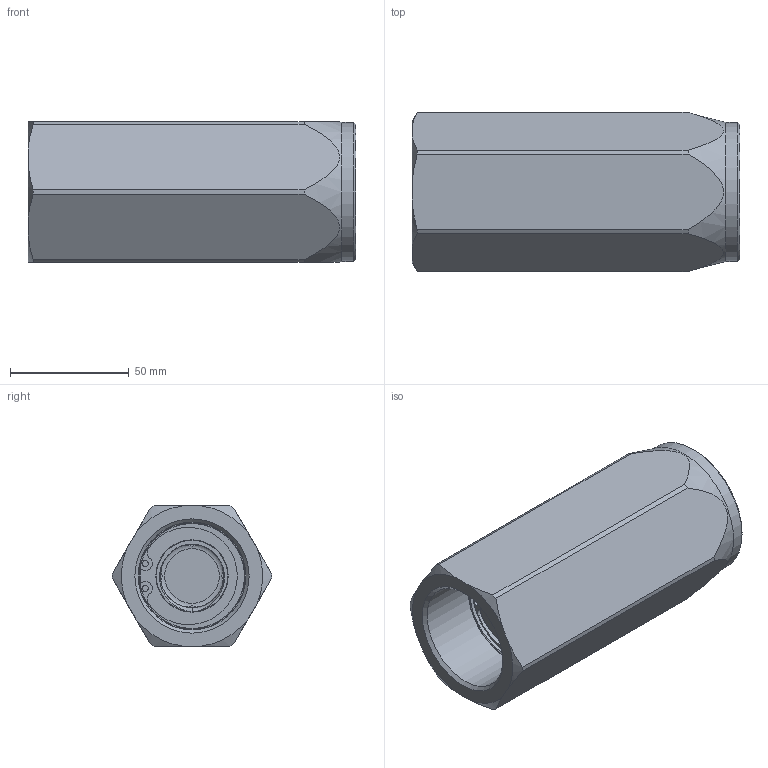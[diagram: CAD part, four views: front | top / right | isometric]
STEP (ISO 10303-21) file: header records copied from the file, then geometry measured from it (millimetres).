
FILE_DESCRIPTION (( 'STEP AP214' ), '1' );
FILE_NAME ('VUR112.STEP', '2020-06-15T07:05:14', ( '' ), ( '' ), 'SwSTEP 2.0', 'SolidWorks 2017', '' );
FILE_SCHEMA (( 'AUTOMOTIVE_DESIGN' ));
Length unit declared in the file: millimetre
Products named in the file (1): VUR112
Bounding box: 138 x 67 x 59 mm (x, y, z)
Volume: 238218.8 mm3; surface area: 78119.3 mm2
Topology: 5 solids, 5 shells, 91 faces, 209 edges, 132 vertices
Faces by surface type: cylinder 33, plane 26, cone 23, bspline 5, torus 4
Full cylindrical faces by diameter (mm): 2.5 x2, 16 x4, 29 x1, 30 x2, 36 x2, 44 x3, 44.2 x2, 45.25 x2, 47 x2, 58.5 x1
Entity records: 6766 total; most frequent: CARTESIAN_POINT 3869, DIRECTION 381, ORIENTED_EDGE 306, AXIS2_PLACEMENT_3D 178, EDGE_LOOP 156, EDGE_CURVE 153, VERTEX_POINT 121, FACE_OUTER_BOUND 118
